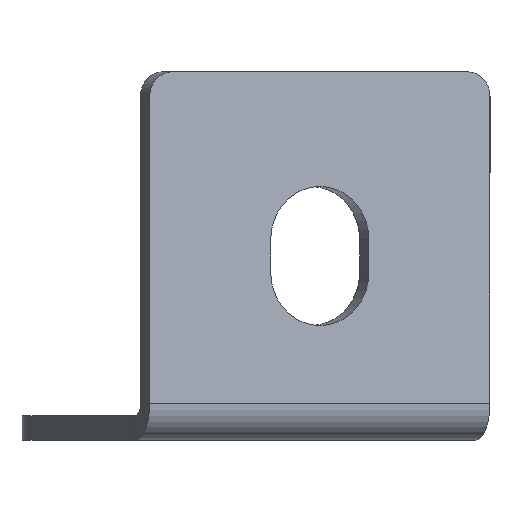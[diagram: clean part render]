
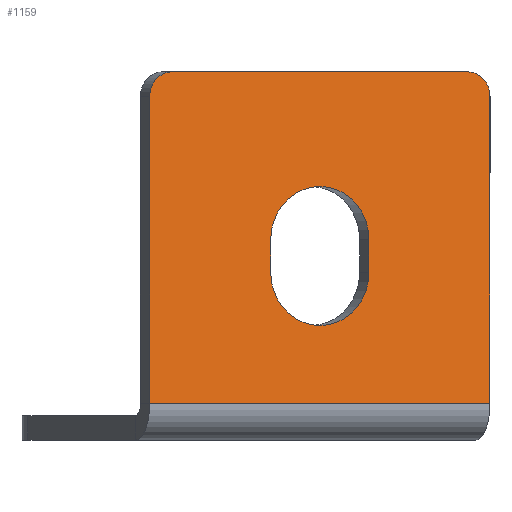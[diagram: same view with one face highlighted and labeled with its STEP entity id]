
A CAD part, left-side view. The second image highlights one B-rep face of the part: STEP entity #1159.
In plain terms, the highlighted planar face has unit normal (-0.924, -0.383, 0).
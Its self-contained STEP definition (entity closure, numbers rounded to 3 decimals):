
#8 = EDGE_CURVE ( 'NONE', #876, #296, #883, .T. ) ;
#27 = CARTESIAN_POINT ( 'NONE',  ( -35.303, 30.586, 42. ) ) ;
#29 = CARTESIAN_POINT ( 'NONE',  ( -30.328, 18.575, 45. ) ) ;
#41 = VERTEX_POINT ( 'NONE', #726 ) ;
#51 = VECTOR ( 'NONE', #1024, 1000. ) ;
#54 = LINE ( 'NONE', #167, #994 ) ;
#72 = ORIENTED_EDGE ( 'NONE', *, *, #352, .T. ) ;
#77 = LINE ( 'NONE', #29, #51 ) ;
#83 = VERTEX_POINT ( 'NONE', #179 ) ;
#85 = EDGE_CURVE ( 'NONE', #935, #113, #487, .T. ) ;
#108 = ORIENTED_EDGE ( 'NONE', *, *, #8, .T. ) ;
#109 = DIRECTION ( 'NONE',  ( 0.383, -0.924, 0. ) ) ;
#113 = VERTEX_POINT ( 'NONE', #1073 ) ;
#121 = EDGE_CURVE ( 'NONE', #968, #975, #973, .T. ) ;
#124 = ORIENTED_EDGE ( 'NONE', *, *, #762, .F. ) ;
#139 = FACE_OUTER_BOUND ( 'NONE', #215, .T. ) ;
#167 = CARTESIAN_POINT ( 'NONE',  ( -19.23, -8.217, 4.5 ) ) ;
#173 = ORIENTED_EDGE ( 'NONE', *, *, #222, .F. ) ;
#179 = CARTESIAN_POINT ( 'NONE',  ( -25.353, 6.565, 20.5 ) ) ;
#191 = AXIS2_PLACEMENT_3D ( 'NONE', #727, #1130, #589 ) ;
#208 = CARTESIAN_POINT ( 'NONE',  ( -19.23, -8.217, 45. ) ) ;
#209 = DIRECTION ( 'NONE',  ( 0., 0., 1. ) ) ;
#215 = EDGE_LOOP ( 'NONE', ( #1164, #326, #72, #1088, #108, #1003 ) ) ;
#222 = EDGE_CURVE ( 'NONE', #558, #83, #798, .T. ) ;
#223 = FACE_BOUND ( 'NONE', #287, .T. ) ;
#233 = DIRECTION ( 'NONE',  ( 0., 0., -1. ) ) ;
#244 = DIRECTION ( 'NONE',  ( -0.924, -0.383, 0. ) ) ;
#249 = CARTESIAN_POINT ( 'NONE',  ( -30.328, 18.575, 20.5 ) ) ;
#287 = EDGE_LOOP ( 'NONE', ( #1145, #894, #124, #173 ) ) ;
#296 = VERTEX_POINT ( 'NONE', #618 ) ;
#304 = CARTESIAN_POINT ( 'NONE',  ( -27.841, 12.57, 20.5 ) ) ;
#322 = AXIS2_PLACEMENT_3D ( 'NONE', #386, #1022, #478 ) ;
#326 = ORIENTED_EDGE ( 'NONE', *, *, #85, .F. ) ;
#352 = EDGE_CURVE ( 'NONE', #935, #41, #1001, .T. ) ;
#373 = CARTESIAN_POINT ( 'NONE',  ( -25.353, 6.565, 24.5 ) ) ;
#386 = CARTESIAN_POINT ( 'NONE',  ( -27.841, 12.57, 24.5 ) ) ;
#387 = DIRECTION ( 'NONE',  ( 0.383, -0.924, 0. ) ) ;
#448 = LINE ( 'NONE', #619, #629 ) ;
#478 = DIRECTION ( 'NONE',  ( 0.383, -0.924, 0. ) ) ;
#487 = CIRCLE ( 'NONE', #191, 3. ) ;
#546 = VECTOR ( 'NONE', #803, 1000. ) ;
#554 = AXIS2_PLACEMENT_3D ( 'NONE', #304, #939, #387 ) ;
#558 = VERTEX_POINT ( 'NONE', #249 ) ;
#571 = CARTESIAN_POINT ( 'NONE',  ( -36.451, 33.358, 42. ) ) ;
#589 = DIRECTION ( 'NONE',  ( 0.383, -0.924, 0. ) ) ;
#618 = CARTESIAN_POINT ( 'NONE',  ( -36.451, 33.358, 4.5 ) ) ;
#619 = CARTESIAN_POINT ( 'NONE',  ( -25.353, 6.565, 45. ) ) ;
#629 = VECTOR ( 'NONE', #209, 1000. ) ;
#637 = VECTOR ( 'NONE', #233, 1000. ) ;
#638 = EDGE_CURVE ( 'NONE', #1074, #296, #54, .T. ) ;
#642 = CARTESIAN_POINT ( 'NONE',  ( -20.378, -5.445, 45. ) ) ;
#652 = CIRCLE ( 'NONE', #914, 3. ) ;
#653 = DIRECTION ( 'NONE',  ( 0.924, 0.383, 0. ) ) ;
#685 = PLANE ( 'NONE',  #930 ) ;
#689 = CARTESIAN_POINT ( 'NONE',  ( -19.23, -8.217, 45. ) ) ;
#726 = CARTESIAN_POINT ( 'NONE',  ( -35.303, 30.586, 45. ) ) ;
#727 = CARTESIAN_POINT ( 'NONE',  ( -20.378, -5.445, 42. ) ) ;
#734 = EDGE_CURVE ( 'NONE', #876, #41, #652, .T. ) ;
#759 = VECTOR ( 'NONE', #833, 1000. ) ;
#762 = EDGE_CURVE ( 'NONE', #83, #968, #448, .T. ) ;
#786 = LINE ( 'NONE', #1161, #546 ) ;
#798 = CIRCLE ( 'NONE', #554, 6.5 ) ;
#803 = DIRECTION ( 'NONE',  ( 0., 0., -1. ) ) ;
#833 = DIRECTION ( 'NONE',  ( -0.383, 0.924, 0. ) ) ;
#854 = EDGE_CURVE ( 'NONE', #975, #558, #77, .T. ) ;
#875 = DIRECTION ( 'NONE',  ( 0.383, -0.924, 0. ) ) ;
#876 = VERTEX_POINT ( 'NONE', #571 ) ;
#883 = LINE ( 'NONE', #1038, #637 ) ;
#894 = ORIENTED_EDGE ( 'NONE', *, *, #121, .F. ) ;
#899 = DIRECTION ( 'NONE',  ( -0.383, 0.924, 0. ) ) ;
#914 = AXIS2_PLACEMENT_3D ( 'NONE', #27, #653, #109 ) ;
#921 = CARTESIAN_POINT ( 'NONE',  ( -30.328, 18.575, 24.5 ) ) ;
#930 = AXIS2_PLACEMENT_3D ( 'NONE', #689, #244, #875 ) ;
#935 = VERTEX_POINT ( 'NONE', #642 ) ;
#939 = DIRECTION ( 'NONE',  ( -0.924, -0.383, 0. ) ) ;
#968 = VERTEX_POINT ( 'NONE', #373 ) ;
#973 = CIRCLE ( 'NONE', #322, 6.5 ) ;
#975 = VERTEX_POINT ( 'NONE', #921 ) ;
#994 = VECTOR ( 'NONE', #899, 1000. ) ;
#1001 = LINE ( 'NONE', #208, #759 ) ;
#1003 = ORIENTED_EDGE ( 'NONE', *, *, #638, .F. ) ;
#1008 = CARTESIAN_POINT ( 'NONE',  ( -19.23, -8.217, 4.5 ) ) ;
#1022 = DIRECTION ( 'NONE',  ( -0.924, -0.383, 0. ) ) ;
#1024 = DIRECTION ( 'NONE',  ( 0., 0., -1. ) ) ;
#1038 = CARTESIAN_POINT ( 'NONE',  ( -36.451, 33.358, 45. ) ) ;
#1046 = EDGE_CURVE ( 'NONE', #113, #1074, #786, .T. ) ;
#1073 = CARTESIAN_POINT ( 'NONE',  ( -19.23, -8.217, 42. ) ) ;
#1074 = VERTEX_POINT ( 'NONE', #1008 ) ;
#1088 = ORIENTED_EDGE ( 'NONE', *, *, #734, .F. ) ;
#1130 = DIRECTION ( 'NONE',  ( 0.924, 0.383, 0. ) ) ;
#1145 = ORIENTED_EDGE ( 'NONE', *, *, #854, .F. ) ;
#1159 = ADVANCED_FACE ( 'NONE', ( #223, #139 ), #685, .T. ) ;
#1161 = CARTESIAN_POINT ( 'NONE',  ( -19.23, -8.217, 45. ) ) ;
#1164 = ORIENTED_EDGE ( 'NONE', *, *, #1046, .F. ) ;
